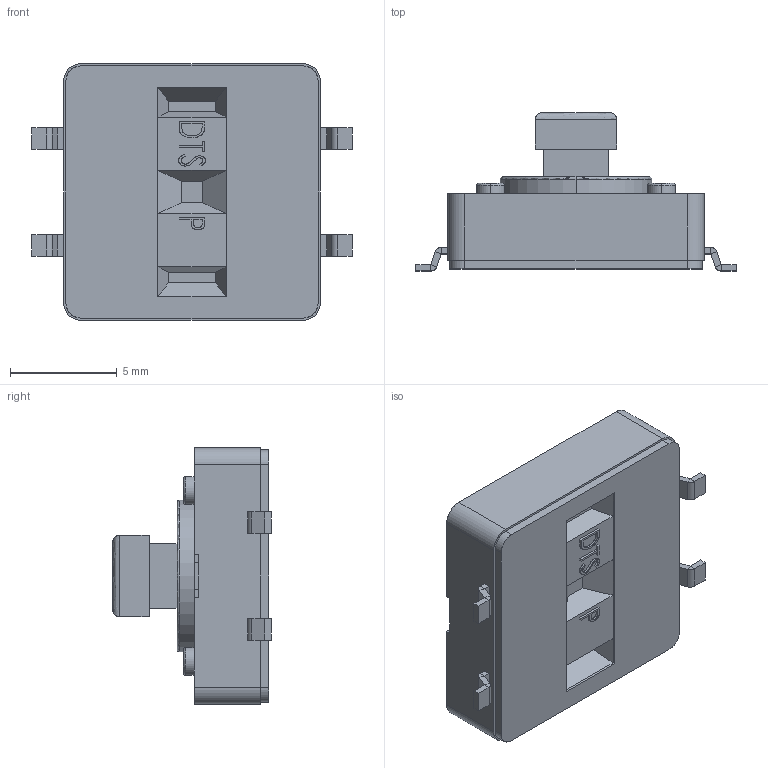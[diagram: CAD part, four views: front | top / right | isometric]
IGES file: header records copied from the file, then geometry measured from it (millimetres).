
Start section: SolidWorks IGES FILE using analytic representation for surfaces
Global section: file name: F:\產品專案\DTSM-2\DTSM-24.IGS; native system: SolidWorks 2004 by SolidWorks Corporation; preprocessor: Version 5.3; author: lsy; date: 050321.160328; units: millimetre
Bounding box: 15 x 7.4 x 12 mm (x, y, z)
Surface area: 1239.1 mm2 (no closed solid volume)
Topology: 0 solids, 0 shells, 514 faces, 4158 edges, 4148 vertices
Faces by surface type: bspline 392, revolution 122
